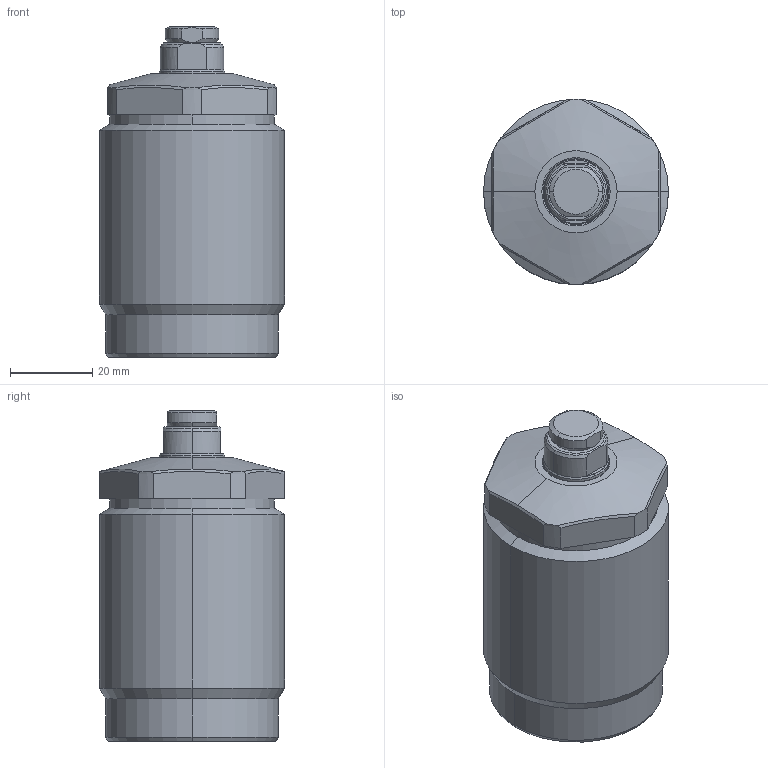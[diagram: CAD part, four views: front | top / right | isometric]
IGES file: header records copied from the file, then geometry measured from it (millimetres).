
Start section: SolidWorks IGES file using analytic representation for surfaces
Global section: file name: F:\CLASP THREADED WORK SUPPORT AND FLANGE IGS MODEL\CLASP THREADED WS IGS\TW09-M260\TW09-M453.IGS; native system: SolidWorks 2019; preprocessor: SolidWorks 2019; author: ADMIN; date: 200806.103910; units: millimetre
Bounding box: 45 x 45 x 80.5 mm (x, y, z)
Volume: 101322.6 mm3; surface area: 17741.2 mm2
Topology: 3 solids, 3 shells, 93 faces, 217 edges, 133 vertices
Faces by surface type: revolution 63, plane 24, bspline 6
